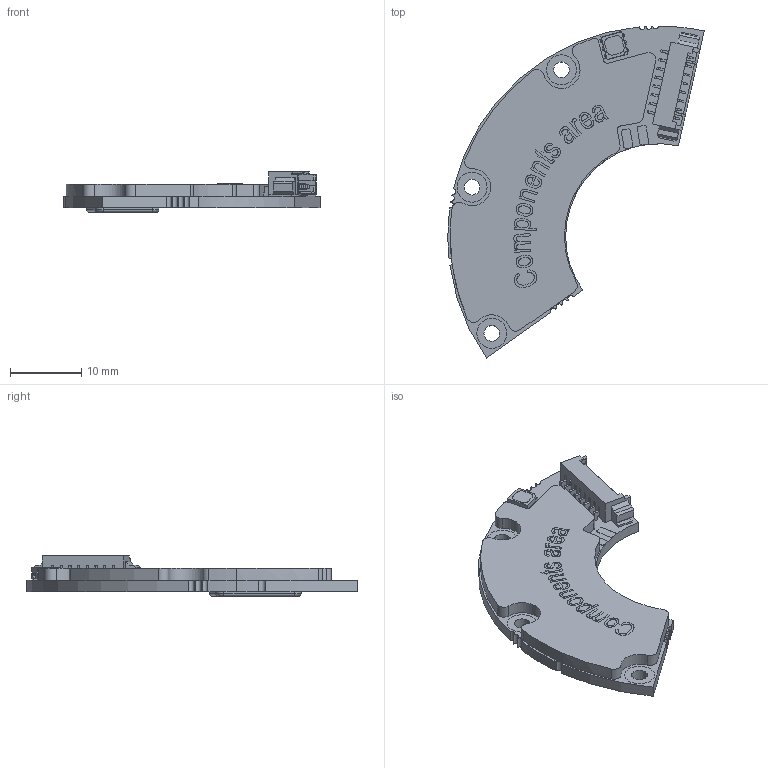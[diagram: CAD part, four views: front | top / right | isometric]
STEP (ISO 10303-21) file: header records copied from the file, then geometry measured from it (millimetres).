
FILE_DESCRIPTION (( 'STEP AP214' ), '1' );
FILE_NAME ('MB049xxxxxxENx00.STEP', '2024-04-18T09:28:37', ( '' ), ( '' ), 'SwSTEP 2.0', 'SolidWorks 2022', '' );
FILE_SCHEMA (( 'AUTOMOTIVE_DESIGN' ));
Length unit declared in the file: millimetre
Products named in the file (1): MB049xxxxxxENx00
Bounding box: 35.88 x 46.5 x 5.65 mm (x, y, z)
Volume: 2500 mm3; surface area: 2743 mm2
Topology: 3 solids, 3 shells, 794 faces, 2228 edges, 1468 vertices
Faces by surface type: plane 518, bspline 139, cylinder 137
Entity records: 40539 total; most frequent: CARTESIAN_POINT 11965, ORIENTED_EDGE 4456, DIRECTION 3547, EDGE_CURVE 2228, LINE 1667, VECTOR 1667, VERTEX_POINT 1468, AXIS2_PLACEMENT_3D 940
